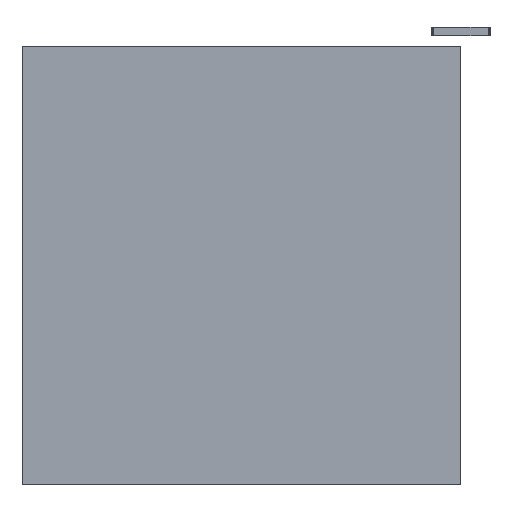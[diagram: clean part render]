
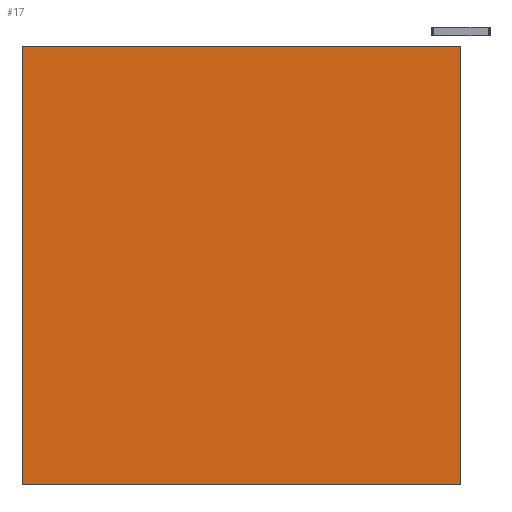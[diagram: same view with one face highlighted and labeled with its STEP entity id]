
A CAD part, left-side view. The second image highlights one B-rep face of the part: STEP entity #17.
In plain terms, the highlighted planar face has unit normal (-1, 0, 0).
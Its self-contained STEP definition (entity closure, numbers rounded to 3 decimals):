
#17 = ADVANCED_FACE('',(#18),#32,.F.);
#18 = FACE_BOUND('',#19,.F.);
#19 = EDGE_LOOP('',(#20,#55,#83,#111));
#20 = ORIENTED_EDGE('',*,*,#21,.F.);
#21 = EDGE_CURVE('',#22,#24,#26,.T.);
#22 = VERTEX_POINT('',#23);
#23 = CARTESIAN_POINT('',(0.,0.,0.));
#24 = VERTEX_POINT('',#25);
#25 = CARTESIAN_POINT('',(0.,0.,42.));
#26 = SURFACE_CURVE('',#27,(#31,#43),.PCURVE_S1.);
#27 = LINE('',#28,#29);
#28 = CARTESIAN_POINT('',(0.,0.,0.));
#29 = VECTOR('',#30,1.);
#30 = DIRECTION('',(0.,0.,1.));
#31 = PCURVE('',#32,#37);
#32 = PLANE('',#33);
#33 = AXIS2_PLACEMENT_3D('',#34,#35,#36);
#34 = CARTESIAN_POINT('',(0.,0.,0.));
#35 = DIRECTION('',(1.,0.,-0.));
#36 = DIRECTION('',(0.,0.,1.));
#37 = DEFINITIONAL_REPRESENTATION('',(#38),#42);
#38 = LINE('',#39,#40);
#39 = CARTESIAN_POINT('',(0.,0.));
#40 = VECTOR('',#41,1.);
#41 = DIRECTION('',(1.,0.));
#42 = ( GEOMETRIC_REPRESENTATION_CONTEXT(2) 
PARAMETRIC_REPRESENTATION_CONTEXT() REPRESENTATION_CONTEXT('2D SPACE',''
  ) );
#43 = PCURVE('',#44,#49);
#44 = PLANE('',#45);
#45 = AXIS2_PLACEMENT_3D('',#46,#47,#48);
#46 = CARTESIAN_POINT('',(0.,0.,0.));
#47 = DIRECTION('',(-0.,1.,0.));
#48 = DIRECTION('',(0.,0.,1.));
#49 = DEFINITIONAL_REPRESENTATION('',(#50),#54);
#50 = LINE('',#51,#52);
#51 = CARTESIAN_POINT('',(0.,0.));
#52 = VECTOR('',#53,1.);
#53 = DIRECTION('',(1.,0.));
#54 = ( GEOMETRIC_REPRESENTATION_CONTEXT(2) 
PARAMETRIC_REPRESENTATION_CONTEXT() REPRESENTATION_CONTEXT('2D SPACE',''
  ) );
#55 = ORIENTED_EDGE('',*,*,#56,.T.);
#56 = EDGE_CURVE('',#22,#57,#59,.T.);
#57 = VERTEX_POINT('',#58);
#58 = CARTESIAN_POINT('',(0.,42.,0.));
#59 = SURFACE_CURVE('',#60,(#64,#71),.PCURVE_S1.);
#60 = LINE('',#61,#62);
#61 = CARTESIAN_POINT('',(0.,0.,0.));
#62 = VECTOR('',#63,1.);
#63 = DIRECTION('',(-0.,1.,0.));
#64 = PCURVE('',#32,#65);
#65 = DEFINITIONAL_REPRESENTATION('',(#66),#70);
#66 = LINE('',#67,#68);
#67 = CARTESIAN_POINT('',(0.,0.));
#68 = VECTOR('',#69,1.);
#69 = DIRECTION('',(0.,-1.));
#70 = ( GEOMETRIC_REPRESENTATION_CONTEXT(2) 
PARAMETRIC_REPRESENTATION_CONTEXT() REPRESENTATION_CONTEXT('2D SPACE',''
  ) );
#71 = PCURVE('',#72,#77);
#72 = PLANE('',#73);
#73 = AXIS2_PLACEMENT_3D('',#74,#75,#76);
#74 = CARTESIAN_POINT('',(0.,0.,0.));
#75 = DIRECTION('',(0.,0.,1.));
#76 = DIRECTION('',(1.,0.,-0.));
#77 = DEFINITIONAL_REPRESENTATION('',(#78),#82);
#78 = LINE('',#79,#80);
#79 = CARTESIAN_POINT('',(0.,0.));
#80 = VECTOR('',#81,1.);
#81 = DIRECTION('',(0.,1.));
#82 = ( GEOMETRIC_REPRESENTATION_CONTEXT(2) 
PARAMETRIC_REPRESENTATION_CONTEXT() REPRESENTATION_CONTEXT('2D SPACE',''
  ) );
#83 = ORIENTED_EDGE('',*,*,#84,.F.);
#84 = EDGE_CURVE('',#85,#57,#87,.T.);
#85 = VERTEX_POINT('',#86);
#86 = CARTESIAN_POINT('',(0.,42.,42.));
#87 = SURFACE_CURVE('',#88,(#92,#99),.PCURVE_S1.);
#88 = LINE('',#89,#90);
#89 = CARTESIAN_POINT('',(0.,42.,42.));
#90 = VECTOR('',#91,1.);
#91 = DIRECTION('',(0.,0.,-1.));
#92 = PCURVE('',#32,#93);
#93 = DEFINITIONAL_REPRESENTATION('',(#94),#98);
#94 = LINE('',#95,#96);
#95 = CARTESIAN_POINT('',(42.,-42.));
#96 = VECTOR('',#97,1.);
#97 = DIRECTION('',(-1.,0.));
#98 = ( GEOMETRIC_REPRESENTATION_CONTEXT(2) 
PARAMETRIC_REPRESENTATION_CONTEXT() REPRESENTATION_CONTEXT('2D SPACE',''
  ) );
#99 = PCURVE('',#100,#105);
#100 = PLANE('',#101);
#101 = AXIS2_PLACEMENT_3D('',#102,#103,#104);
#102 = CARTESIAN_POINT('',(0.,42.,0.));
#103 = DIRECTION('',(-0.,1.,0.));
#104 = DIRECTION('',(0.,0.,1.));
#105 = DEFINITIONAL_REPRESENTATION('',(#106),#110);
#106 = LINE('',#107,#108);
#107 = CARTESIAN_POINT('',(42.,0.));
#108 = VECTOR('',#109,1.);
#109 = DIRECTION('',(-1.,0.));
#110 = ( GEOMETRIC_REPRESENTATION_CONTEXT(2) 
PARAMETRIC_REPRESENTATION_CONTEXT() REPRESENTATION_CONTEXT('2D SPACE',''
  ) );
#111 = ORIENTED_EDGE('',*,*,#112,.F.);
#112 = EDGE_CURVE('',#24,#85,#113,.T.);
#113 = SURFACE_CURVE('',#114,(#118,#125),.PCURVE_S1.);
#114 = LINE('',#115,#116);
#115 = CARTESIAN_POINT('',(0.,0.,42.));
#116 = VECTOR('',#117,1.);
#117 = DIRECTION('',(-0.,1.,0.));
#118 = PCURVE('',#32,#119);
#119 = DEFINITIONAL_REPRESENTATION('',(#120),#124);
#120 = LINE('',#121,#122);
#121 = CARTESIAN_POINT('',(42.,0.));
#122 = VECTOR('',#123,1.);
#123 = DIRECTION('',(0.,-1.));
#124 = ( GEOMETRIC_REPRESENTATION_CONTEXT(2) 
PARAMETRIC_REPRESENTATION_CONTEXT() REPRESENTATION_CONTEXT('2D SPACE',''
  ) );
#125 = PCURVE('',#126,#131);
#126 = PLANE('',#127);
#127 = AXIS2_PLACEMENT_3D('',#128,#129,#130);
#128 = CARTESIAN_POINT('',(0.,0.,42.));
#129 = DIRECTION('',(0.,0.,1.));
#130 = DIRECTION('',(1.,0.,-0.));
#131 = DEFINITIONAL_REPRESENTATION('',(#132),#136);
#132 = LINE('',#133,#134);
#133 = CARTESIAN_POINT('',(0.,0.));
#134 = VECTOR('',#135,1.);
#135 = DIRECTION('',(0.,1.));
#136 = ( GEOMETRIC_REPRESENTATION_CONTEXT(2) 
PARAMETRIC_REPRESENTATION_CONTEXT() REPRESENTATION_CONTEXT('2D SPACE',''
  ) );
